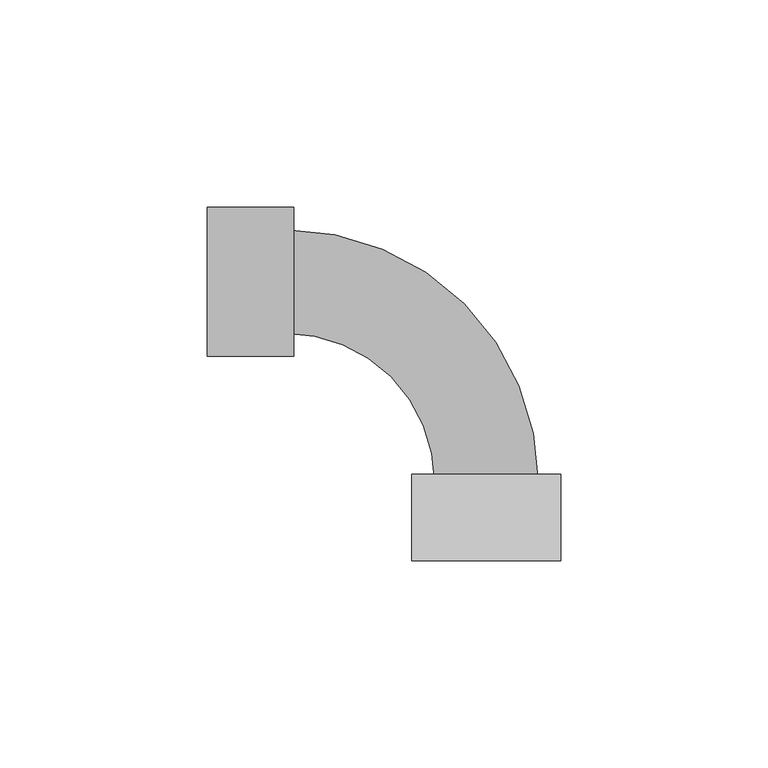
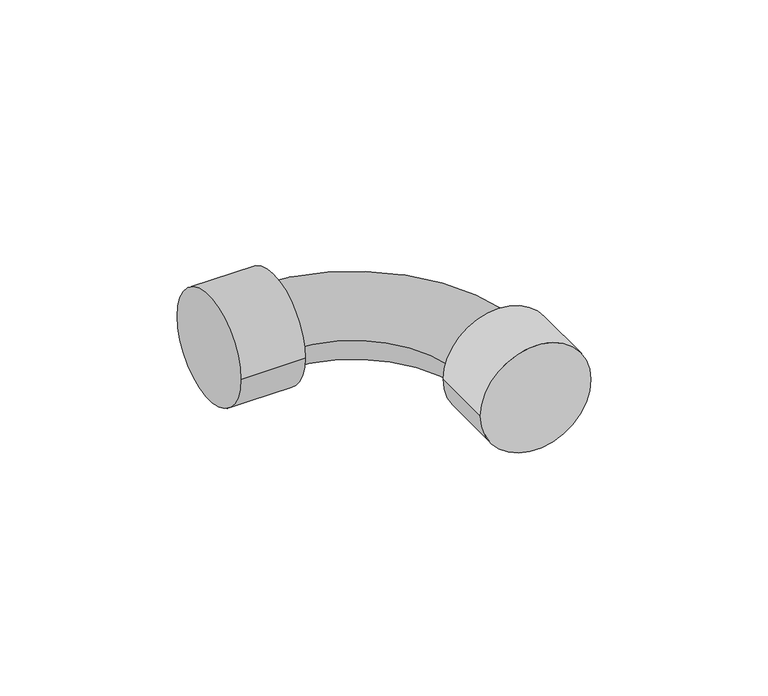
"""IFC4 building model written with IfcOpenShell, lengths in millimetres: pipe fitting geometry, 01051159 : Curva a 90º F/F."""

import ifcopenshell
import ifcopenshell.guid

model = None  # the IFC model being written
_history = None  # IfcOwnerHistory: only IFC2X3 demands one
_inside = {}  # id of a spatial element -> (the spatial element, [elements in it])
_under = {}  # id of a project, library or spatial element -> (it, [spatial elements below it])
_declared = {}  # id of a project -> (the project, [libraries it declares])
_typed = {}  # id of a type object -> (the type object, [elements of that type])
_made_of = {}  # id of a material, layer set ... -> (it, [elements and type objects made of it])


def new_model(schema):
    """Start an empty IFC model of exactly this schema.

    Asked for "IFC4X3", IfcOpenShell would pick the latest addendum, in which some entities
    have other attributes; the version numbers below select the first issue.
    IFC2X3 requires an IfcOwnerHistory on every rooted entity: one is made here for all.
    """
    global model, _history
    if schema == "IFC4X3":
        model = ifcopenshell.file(schema_version=(4, 3, 0, 0))
    else:
        model = ifcopenshell.file(schema=schema)
    _inside.clear()
    _under.clear()
    _declared.clear()
    _typed.clear()
    _made_of.clear()
    _history = None
    if model.schema == "IFC2X3":
        org = make("IfcOrganization", Name="unknown")
        user = make(
            "IfcPersonAndOrganization",
            ThePerson=make("IfcPerson", FamilyName="unknown"),
            TheOrganization=org,
        )
        app = make(
            "IfcApplication",
            ApplicationDeveloper=org,
            Version="unknown",
            ApplicationFullName="unknown",
            ApplicationIdentifier="unknown",
        )
        _history = make(
            "IfcOwnerHistory",
            OwningUser=user,
            OwningApplication=app,
            ChangeAction="ADDED",
            CreationDate=0,
        )
    return model


def make(cls, **values):
    """One entity of the class cls with the attributes given. An attribute that is None is left unset."""
    return model.create_entity(
        cls, **{name: value for name, value in values.items() if value is not None}
    )


def rooted(cls, **values):
    """An entity with a GlobalId (a new one), such as an element, a storey or a relation."""
    return make(cls, GlobalId=ifcopenshell.guid.new(), OwnerHistory=_history, **values)


def si_unit(unit_type, name, prefix=None):
    """IfcSIUnit, for example si_unit("LENGTHUNIT", "METRE", prefix="MILLI")."""
    return make("IfcSIUnit", UnitType=unit_type, Prefix=prefix, Name=name)


def assignment(units):
    """IfcUnitAssignment: the units of a project."""
    return None if units is None else make("IfcUnitAssignment", Units=units)


def point(xyz):
    """IfcCartesianPoint."""
    return None if xyz is None else make("IfcCartesianPoint", Coordinates=xyz)


def direction(xyz):
    """IfcDirection."""
    return None if xyz is None else make("IfcDirection", DirectionRatios=xyz)


def frame(location, z_axis=None, x_axis=None):
    """IfcAxis2Placement3D, a coordinate frame: its origin and axes. An axis left out is left unset."""
    return make(
        "IfcAxis2Placement3D",
        Location=point(location),
        Axis=direction(z_axis),
        RefDirection=direction(x_axis),
    )


def frame_2d(location, x_axis=None):
    """IfcAxis2Placement2D, a coordinate frame in the plane: its origin and x axis."""
    return make(
        "IfcAxis2Placement2D", Location=point(location), RefDirection=direction(x_axis)
    )


def origin():
    """The frame at (0, 0, 0) with its axes left unset."""
    return frame((0.0, 0.0, 0.0))


def origin_2d():
    """The frame at (0, 0) in the plane with its x axis left unset."""
    return frame_2d((0.0, 0.0))


def place(relative_to, where):
    """IfcLocalPlacement: puts the frame where relative to a parent placement (None: the world)."""
    return make(
        "IfcLocalPlacement", PlacementRelTo=relative_to, RelativePlacement=where
    )


def context(
    kind, dimensions, precision=None, world=None, true_north=None, identifier=None
):
    """IfcGeometricRepresentationContext, for example the 3D "Model" context."""
    return make(
        "IfcGeometricRepresentationContext",
        ContextIdentifier=identifier,
        ContextType=kind,
        CoordinateSpaceDimension=dimensions,
        Precision=precision,
        WorldCoordinateSystem=world,
        TrueNorth=true_north,
    )


def project(units=None, contexts=None):
    """IfcProject with its units and contexts."""
    return rooted(
        "IfcProject",
        Name="project",
        RepresentationContexts=contexts,
        UnitsInContext=assignment(units),
    )


def spatial(cls, under=None, at=None, **own):
    """A site, building, storey or space (cls), placed at a placement, below another one or the project."""
    s = rooted(cls, ObjectPlacement=at, **own)
    if under is not None:
        _under.setdefault(under.id(), (under, []))[1].append(s)
    return s


def circle_curve(where, radius):
    """IfcCircle in the frame where."""
    return make("IfcCircle", Position=where, Radius=radius)


def ellipse_curve(where, semi_axis1, semi_axis2):
    """IfcEllipse in the frame where."""
    return make(
        "IfcEllipse", Position=where, SemiAxis1=semi_axis1, SemiAxis2=semi_axis2
    )


def trimmed(basis, trim1, trim2, sense, master):
    """IfcTrimmedCurve: the piece of a basis curve between two trims."""
    return make(
        "IfcTrimmedCurve",
        BasisCurve=basis,
        Trim1=trim1,
        Trim2=trim2,
        SenseAgreement=sense,
        MasterRepresentation=master,
    )


def segment(curve, same_sense, transition):
    """IfcCompositeCurveSegment."""
    return make(
        "IfcCompositeCurveSegment",
        Transition=transition,
        SameSense=same_sense,
        ParentCurve=curve,
    )


def composite_curve(segments, self_intersect=None):
    """IfcCompositeCurve: segments joined end to end."""
    return make("IfcCompositeCurve", Segments=segments, SelfIntersect=self_intersect)


def outline(outer, holes=None, kind="AREA"):
    """IfcArbitraryClosedProfileDef: a profile drawn as a closed curve; with holes, ...WithVoids."""
    if holes is None:
        return make("IfcArbitraryClosedProfileDef", ProfileType=kind, OuterCurve=outer)
    return make(
        "IfcArbitraryProfileDefWithVoids",
        ProfileType=kind,
        OuterCurve=outer,
        InnerCurves=holes,
    )


def extrude(swept, where, along, depth):
    """IfcExtrudedAreaSolid: the profile swept, set in the frame where, extruded along a direction by depth."""
    return make(
        "IfcExtrudedAreaSolid",
        SweptArea=swept,
        Position=where,
        ExtrudedDirection=direction(along),
        Depth=depth,
    )


def shape(context_of_items, identifier, shape_type, items):
    """IfcShapeRepresentation: the items that make up one representation, for example the "Body"."""
    return make(
        "IfcShapeRepresentation",
        ContextOfItems=context_of_items,
        RepresentationIdentifier=identifier,
        RepresentationType=shape_type,
        Items=items,
    )


def source(mapping_origin, context_of_items, identifier, shape_type, items):
    """IfcRepresentationMap: a shape defined once, which mapped items show again and again."""
    return make(
        "IfcRepresentationMap",
        MappingOrigin=mapping_origin,
        MappedRepresentation=shape(context_of_items, identifier, shape_type, items),
    )


def transform(
    local_origin,
    x_axis=None,
    y_axis=None,
    z_axis=None,
    scale=None,
    scale2=None,
    scale3=None,
    uniform=True,
):
    """IfcCartesianTransformationOperator3D, or its non-uniform kind. x_axis, y_axis, z_axis: its Axis1, 2, 3."""
    if uniform:
        return make(
            "IfcCartesianTransformationOperator3D",
            Axis1=direction(x_axis),
            Axis2=direction(y_axis),
            LocalOrigin=point(local_origin),
            Scale=scale,
            Axis3=direction(z_axis),
        )
    return make(
        "IfcCartesianTransformationOperator3DnonUniform",
        Axis1=direction(x_axis),
        Axis2=direction(y_axis),
        LocalOrigin=point(local_origin),
        Scale=scale,
        Axis3=direction(z_axis),
        Scale2=scale2,
        Scale3=scale3,
    )


def mapped(mapping_source, mapping_target):
    """IfcMappedItem: shows the shape of a source again, moved by a transform."""
    return make(
        "IfcMappedItem", MappingSource=mapping_source, MappingTarget=mapping_target
    )


def made_of(thing, what):
    """Note that an element or type object is made of a material, layer set ...; save() writes the relation."""
    if what is not None:
        _made_of.setdefault(what.id(), (what, []))[1].append(thing)
    return thing


def element(
    cls,
    number,
    at=None,
    inside=None,
    cuts=None,
    type_object=None,
    material=None,
    context=None,
    identifier="Body",
    shape_type=None,
    held_by="IfcProductDefinitionShape",
    body=None,
    shapes=None,
    **own,
):
    """One element of the class cls, such as IfcWall. Its Tag is "e" and its number.

    at: its placement. inside: the storey or other place that contains it. cuts: it is an
    opening in that element (IfcRelVoidsElement). A single representation is given by context,
    identifier, shape_type and body (its items); several are given by shapes. held_by: the class
    of the entity that holds the representations. save() writes the other relations.
    """
    e = rooted(cls, Tag="e%d" % number, ObjectPlacement=at, **own)
    if body is not None:
        shapes = [shape(context, identifier, shape_type, body)]
    if shapes is not None:
        e.Representation = make(held_by, Representations=shapes)
    if inside is not None:
        _inside.setdefault(inside.id(), (inside, []))[1].append(e)
    if cuts is not None:
        rooted(
            "IfcRelVoidsElement", RelatingBuildingElement=cuts, RelatedOpeningElement=e
        )
    if type_object is not None:
        _typed.setdefault(type_object.id(), (type_object, []))[1].append(e)
    return made_of(e, material)


def aggregate(whole, parts):
    """IfcRelAggregates: a whole, such as a stair, and the parts it consists of."""
    return rooted("IfcRelAggregates", RelatingObject=whole, RelatedObjects=parts)


def save(model, path):
    """Write the relations noted so far, then the file.

    IfcRelAggregates (storeys below a building ...), IfcRelContainedInSpatialStructure (elements
    in a storey), IfcRelDefinesByType, IfcRelAssociatesMaterial and IfcRelDeclares: one each for
    every whole, place, type object, material and project.
    """
    for whole, parts in _under.values():
        aggregate(whole, parts)
    for where, things in _inside.values():
        rooted(
            "IfcRelContainedInSpatialStructure",
            RelatedElements=things,
            RelatingStructure=where,
        )
    for kind, things in _typed.values():
        rooted("IfcRelDefinesByType", RelatedObjects=things, RelatingType=kind)
    for what, things in _made_of.values():
        rooted("IfcRelAssociatesMaterial", RelatedObjects=things, RelatingMaterial=what)
    for by, libraries in _declared.values():
        rooted("IfcRelDeclares", RelatingContext=by, RelatedDefinitions=libraries)
    model.write(path)


def plane_surface(at):
    """IfcPlane: the flat surface through the origin of the frame at, square to its z axis."""
    return make("IfcPlane", Position=at)


def revolved_surface(curve, axis_point, axis_direction):
    """IfcSurfaceOfRevolution: the curve turned about the line through axis_point along axis_direction."""
    return make(
        "IfcSurfaceOfRevolution",
        SweptCurve=make("IfcArbitraryOpenProfileDef", ProfileType="CURVE", Curve=curve),
        AxisPosition=make("IfcAxis1Placement", Location=point(axis_point), Axis=direction(axis_direction)),
    )


def advanced_brep(points, edges, surfaces, faces):
    """IfcAdvancedBrep: a solid bounded by faces that lie on surfaces and meet in shared edges.

    An edge is (start, end): straight between two places in points (the first is 0);
    or (start, end, curve); or (start, end, curve, False) where it runs against its curve.
    A face is (place in surfaces, loops), or (place, loops, False) where it looks against
    its surface's normal. A loop lists edges by number (the first is 1), with a minus sign
    where the edge is run from its end to its start. The first loop is the outer one.
    """
    corners = [point(p) for p in points]
    vertices = [make("IfcVertexPoint", VertexGeometry=c) for c in corners]
    made = []
    for start, end, *more in edges:
        made.append(
            make(
                "IfcEdgeCurve",
                EdgeStart=vertices[start],
                EdgeEnd=vertices[end],
                EdgeGeometry=more[0] if more else make("IfcPolyline", Points=[corners[start], corners[end]]),
                SameSense=more[1] if len(more) > 1 else True,
            )
        )
    hull = []
    for where, loops, *sense in faces:
        bounds = []
        for j, loop in enumerate(loops):
            ring = [make("IfcOrientedEdge", EdgeElement=made[abs(k) - 1], Orientation=k > 0) for k in loop]
            bounds.append(
                make(
                    "IfcFaceOuterBound" if j == 0 else "IfcFaceBound",
                    Bound=make("IfcEdgeLoop", EdgeList=ring),
                    Orientation=True,
                )
            )
        hull.append(make("IfcAdvancedFace", Bounds=bounds, FaceSurface=surfaces[where], SameSense=sense[0] if sense else True))
    return make("IfcAdvancedBrep", Outer=make("IfcClosedShell", CfsFaces=hull))


def pipe_fitting_bcccbf8d(model_context):
    return source(origin(), model_context, "Body", "SolidModel", [
        extrude(outline(composite_curve([segment(trimmed(circle_curve(origin_2d(), 18.0), [point((18.0, 0.0))], [point((-18.0, 0.0))], False, "CARTESIAN"), True, "CONTINUOUS"), segment(trimmed(circle_curve(origin_2d(), 18.0), [point((-18.0, 0.0))], [point((18.0, 0.0))], False, "CARTESIAN"), True, "CONTINUOUS")], self_intersect=False)), frame((-67.5, 0.0, 0.0), z_axis=(1.0, 0.0, 0.0), x_axis=(0.0, 1.0, 0.0)), (0.0, 0.0, 1.0), 21.0),
        extrude(outline(composite_curve([segment(trimmed(circle_curve(origin_2d(), 18.0), [point((0.0, -18.0))], [point((0.0, 18.0))], False, "CARTESIAN"), True, "CONTINUOUS"), segment(trimmed(circle_curve(origin_2d(), 18.0), [point((0.0, 18.0))], [point((0.0, -18.0))], False, "CARTESIAN"), True, "CONTINUOUS")], self_intersect=False)), frame((0.0, -67.5, 0.0), z_axis=(0.0, 1.0, 0.0), x_axis=(0.0, 0.0, 1.0)), (0.0, 0.0, 1.0), 21.0),
        advanced_brep(
        [(-12.5, -48.5, 0.0), (12.5, -48.5, 0.0), (-48.5, -12.5, 0.0), (-48.5, 12.5, 0.0)],
        [
            (0, 1, circle_curve(frame((0.0, -48.5, 0.0), z_axis=(0.0, -1.0, 0.0), x_axis=(1.0, 0.0, 0.0)), 12.5)),
            (1, 0, circle_curve(frame((0.0, -48.5, 0.0), z_axis=(0.0, -1.0, 0.0), x_axis=(1.0, 0.0, 0.0)), 12.5)),
            (2, 3, circle_curve(frame((-48.5, 0.0, 0.0), z_axis=(-1.0, 0.0, 0.0), x_axis=(0.0, 1.0, 0.0)), 12.5)),
            (3, 2, circle_curve(frame((-48.5, 0.0, 0.0), z_axis=(-1.0, 0.0, 0.0), x_axis=(0.0, 1.0, 0.0)), 12.5)),
            (2, 0, circle_curve(frame((-48.5, -48.5, 0.0), z_axis=(0.0, 0.0, -1.0), x_axis=(1.0, 0.0, 0.0)), 36.0)),
            (1, 3, circle_curve(frame((-48.5, -48.5, 0.0), z_axis=(0.0, 0.0, 1.0), x_axis=(1.0, 0.0, 0.0)), 61.0)),
        ],
        [
            plane_surface(frame((0.0, -48.5, 0.0), z_axis=(0.0, -1.0, 0.0), x_axis=(0.0, 0.0, 1.0))),
            plane_surface(frame((-48.5, 0.0, 0.0), z_axis=(-1.0, 0.0, 0.0), x_axis=(0.0, 0.0, 1.0))),
            revolved_surface(trimmed(ellipse_curve(frame((0.0, -48.5, 0.0), z_axis=(0.0, 1.0, 0.0), x_axis=(1.0, 0.0, 0.0)), 12.5, 12.5), [point((-12.5, -48.5, 0.0))], [point((12.5, -48.5, 0.0))], True, "CARTESIAN"), (-48.5, -48.5, 0.0), (0.0, 0.0, -1.0)),
            revolved_surface(trimmed(ellipse_curve(frame((0.0, -48.5, 0.0), z_axis=(0.0, 1.0, 0.0), x_axis=(1.0, 0.0, 0.0)), 12.5, 12.5), [point((12.5, -48.5, 0.0))], [point((-12.5, -48.5, 0.0))], True, "CARTESIAN"), (-48.5, -48.5, 0.0), (0.0, 0.0, -1.0)),
        ],
        [
            (0, [[1, 2]]),
            (1, [[3, 4]]),
            (2, [[-3, 5, -2, 6]]),
            (3, [[-4, -6, -1, -5]]),
        ],
    ),
    ])


if __name__ == "__main__":
    model = new_model("IFC4")
    model_context = context("Model", 3, world=origin())
    ifc_project = project(units=[si_unit("LENGTHUNIT", "METRE", prefix="MILLI")], contexts=[model_context])
    site = spatial("IfcSite", under=ifc_project)
    building = spatial("IfcBuilding", under=site)
    placement = place(None, origin())
    pipe_fitting_shape = pipe_fitting_bcccbf8d(model_context)
    element("IfcPipeFitting", 1, ObjectType="01051159 : Curva a 90º F/F", at=placement, inside=building, context=model_context, shape_type="MappedRepresentation", body=[
        mapped(pipe_fitting_shape, transform((0.0, 0.0, 0.0), x_axis=(1.0, 0.0, 0.0), y_axis=(0.0, 1.0, 0.0), z_axis=(0.0, 0.0, 1.0))),
    ])
    save(model, "model.ifc")
